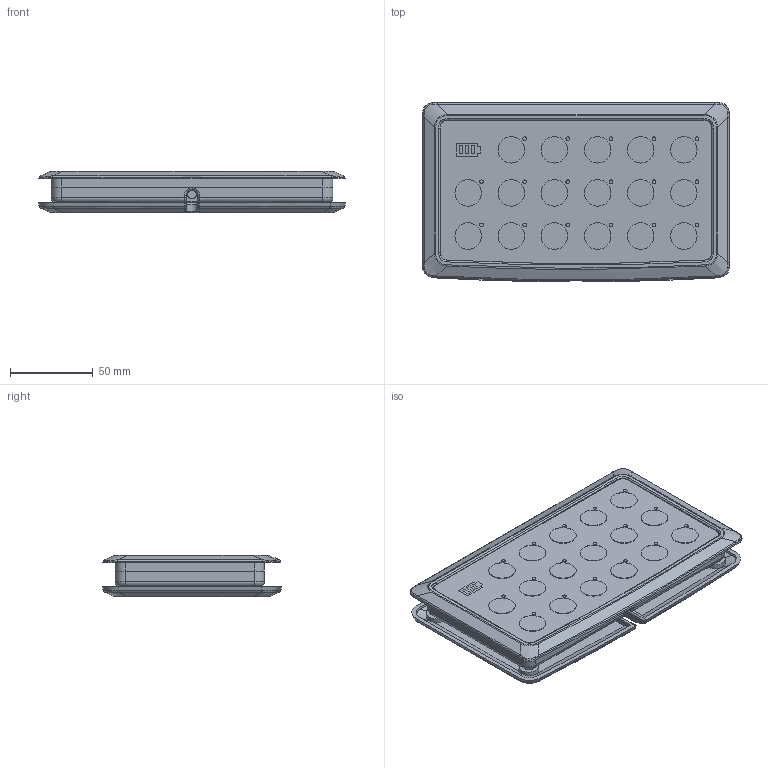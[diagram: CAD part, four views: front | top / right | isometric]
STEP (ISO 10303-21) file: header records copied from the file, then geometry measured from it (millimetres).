
FILE_DESCRIPTION (( 'STEP AP203' ), '1' );
FILE_NAME ('TNP2_free.STEP', '2012-02-06T03:28:23', ( 'Jeremy' ), ( '' ), 'SwSTEP 2.0', 'SolidWorks 2010', '' );
FILE_SCHEMA (( 'CONFIG_CONTROL_DESIGN' ));
Length unit declared in the file: millimetre
Products named in the file (1): TNP2_free
Bounding box: 185.61 x 108.42 x 25 mm (x, y, z)
Volume: 336779.8 mm3; surface area: 123529 mm2
Topology: 2 solids, 2 shells, 506 faces, 1206 edges, 758 vertices
Faces by surface type: cylinder 180, plane 179, bspline 93, torus 37, cone 17
Entity records: 23601 total; most frequent: CARTESIAN_POINT 12259, ORIENTED_EDGE 2412, DIRECTION 2224, EDGE_CURVE 1206, AXIS2_PLACEMENT_3D 866, VERTEX_POINT 758, EDGE_LOOP 568, FACE_OUTER_BOUND 506
